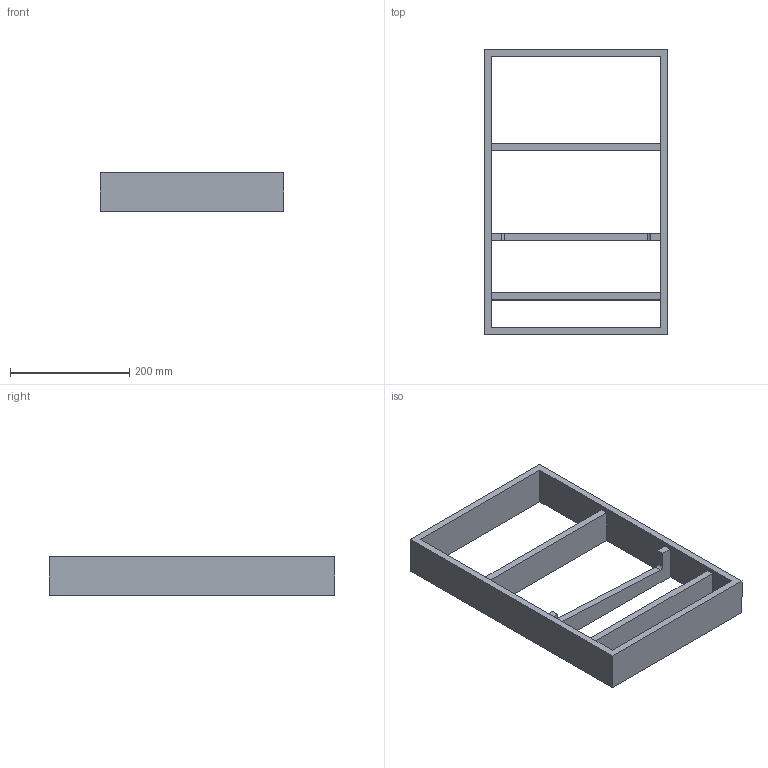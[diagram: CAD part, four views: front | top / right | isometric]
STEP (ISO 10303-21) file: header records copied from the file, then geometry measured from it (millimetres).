
FILE_DESCRIPTION (( 'STEP AP214' ), '1' );
FILE_NAME ('Vario Messer_Modul_H65_NL500_B400_16mm_Alu_Buche.step', '2010-10-07T06:11:47', ( 'grass' ), ( '' ), 'SwSTEP 2.0', 'SolidWorks 2010', '' );
FILE_SCHEMA (( 'AUTOMOTIVE_DESIGN' ));
Length unit declared in the file: millimetre
Products named in the file (1): Vario Messer_Modul_H65_NL500_B400_16mm_Alu_Buche
Bounding box: 308 x 479 x 65 mm (x, y, z)
Volume: 1695177.5 mm3; surface area: 336073.2 mm2
Topology: 1 solids, 1 shells, 25 faces, 78 edges, 52 vertices
Faces by surface type: plane 23, cylinder 2
Entity records: 906 total; most frequent: CARTESIAN_POINT 156, ORIENTED_EDGE 156, DIRECTION 134, EDGE_CURVE 78, VECTOR 74, LINE 74, VERTEX_POINT 52, AXIS2_PLACEMENT_3D 30
